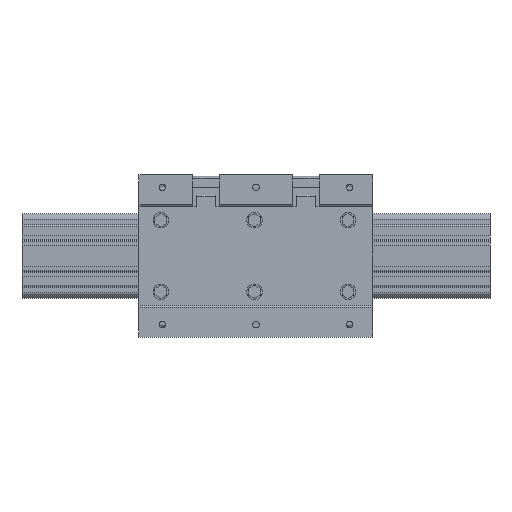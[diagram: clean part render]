
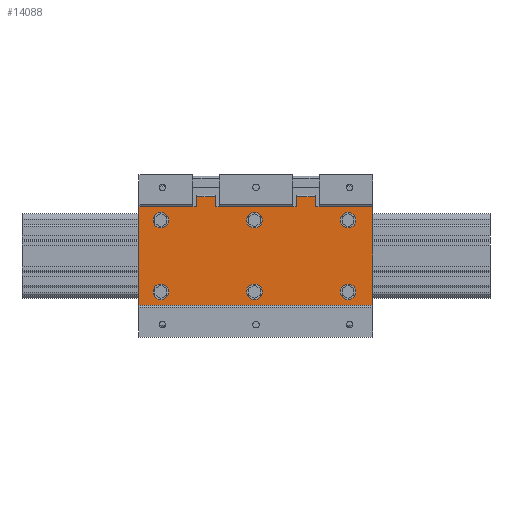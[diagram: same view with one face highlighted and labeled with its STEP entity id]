
A CAD part, top view. The second image highlights one B-rep face of the part: STEP entity #14088.
In plain terms, the highlighted planar face has unit normal (0, 0, 1).
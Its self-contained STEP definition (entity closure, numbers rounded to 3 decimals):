
#7550=CARTESIAN_POINT('',(129.0,-23.,18.));
#7551=VERTEX_POINT('',#7550);
#7552=CARTESIAN_POINT('',(134.0,-23.,18.));
#7553=DIRECTION('',(0.0,0.0,-1.0));
#7554=DIRECTION('',(-1.0,0.0,0.0));
#7555=AXIS2_PLACEMENT_3D('',#7552,#7553,#7554);
#7556=CIRCLE('',#7555,5.0);
#7557=EDGE_CURVE('',#7551,#7551,#7556,.T.);
#7646=CARTESIAN_POINT('',(69.0,-23.,18.));
#7647=VERTEX_POINT('',#7646);
#7648=CARTESIAN_POINT('',(74.0,-23.,18.));
#7649=DIRECTION('',(0.0,0.0,-1.0));
#7650=DIRECTION('',(-1.0,0.0,0.0));
#7651=AXIS2_PLACEMENT_3D('',#7648,#7649,#7650);
#7652=CIRCLE('',#7651,5.0);
#7653=EDGE_CURVE('',#7647,#7647,#7652,.T.);
#7742=CARTESIAN_POINT('',(9.,-23.,18.));
#7743=VERTEX_POINT('',#7742);
#7744=CARTESIAN_POINT('',(14.,-23.,18.));
#7745=DIRECTION('',(0.0,0.0,-1.0));
#7746=DIRECTION('',(-1.0,0.0,0.0));
#7747=AXIS2_PLACEMENT_3D('',#7744,#7745,#7746);
#7748=CIRCLE('',#7747,5.0);
#7749=EDGE_CURVE('',#7743,#7743,#7748,.T.);
#7838=CARTESIAN_POINT('',(129.0,23.,18.));
#7839=VERTEX_POINT('',#7838);
#7840=CARTESIAN_POINT('',(134.0,23.,18.));
#7841=DIRECTION('',(0.0,0.0,-1.0));
#7842=DIRECTION('',(-1.0,0.0,0.0));
#7843=AXIS2_PLACEMENT_3D('',#7840,#7841,#7842);
#7844=CIRCLE('',#7843,5.0);
#7845=EDGE_CURVE('',#7839,#7839,#7844,.T.);
#7934=CARTESIAN_POINT('',(69.0,23.,18.));
#7935=VERTEX_POINT('',#7934);
#7936=CARTESIAN_POINT('',(74.0,23.,18.));
#7937=DIRECTION('',(0.0,0.0,-1.0));
#7938=DIRECTION('',(-1.0,0.0,0.0));
#7939=AXIS2_PLACEMENT_3D('',#7936,#7937,#7938);
#7940=CIRCLE('',#7939,5.0);
#7941=EDGE_CURVE('',#7935,#7935,#7940,.T.);
#8216=CARTESIAN_POINT('',(9.,23.,18.));
#8217=VERTEX_POINT('',#8216);
#8218=CARTESIAN_POINT('',(14.,23.,18.));
#8219=DIRECTION('',(0.0,0.0,-1.0));
#8220=DIRECTION('',(-1.0,0.0,0.0));
#8221=AXIS2_PLACEMENT_3D('',#8218,#8219,#8220);
#8222=CIRCLE('',#8221,5.0);
#8223=EDGE_CURVE('',#8217,#8217,#8222,.T.);
#12508=CARTESIAN_POINT('',(101.,31.7,18.));
#12509=VERTEX_POINT('',#12508);
#12516=CARTESIAN_POINT('',(101.,38.,18.));
#12517=VERTEX_POINT('',#12516);
#12518=CARTESIAN_POINT('',(101.,38.,18.));
#12519=DIRECTION('',(0.0,-1.0,0.0));
#12520=VECTOR('',#12519,6.3);
#12521=LINE('',#12518,#12520);
#12522=EDGE_CURVE('',#12517,#12509,#12521,.T.);
#12572=CARTESIAN_POINT('',(113.0,38.,18.));
#12573=VERTEX_POINT('',#12572);
#12590=CARTESIAN_POINT('',(113.0,38.,18.));
#12591=DIRECTION('',(-1.0,0.0,0.0));
#12592=VECTOR('',#12591,12.);
#12593=LINE('',#12590,#12592);
#12594=EDGE_CURVE('',#12573,#12517,#12593,.T.);
#12701=CARTESIAN_POINT('',(113.0,31.7,18.));
#12702=VERTEX_POINT('',#12701);
#12703=CARTESIAN_POINT('',(113.0,31.7,18.));
#12704=DIRECTION('',(0.0,1.0,0.0));
#12705=VECTOR('',#12704,6.3);
#12706=LINE('',#12703,#12705);
#12707=EDGE_CURVE('',#12702,#12573,#12706,.T.);
#12745=CARTESIAN_POINT('',(98.5,31.7,18.));
#12746=VERTEX_POINT('',#12745);
#12753=CARTESIAN_POINT('',(98.5,31.7,18.));
#12754=DIRECTION('',(1.0,0.0,0.0));
#12755=VECTOR('',#12754,2.5);
#12756=LINE('',#12753,#12755);
#12757=EDGE_CURVE('',#12746,#12509,#12756,.T.);
#12768=CARTESIAN_POINT('',(115.5,31.7,18.));
#12769=VERTEX_POINT('',#12768);
#12770=CARTESIAN_POINT('',(113.0,31.7,18.));
#12771=DIRECTION('',(1.0,0.0,0.0));
#12772=VECTOR('',#12771,2.5);
#12773=LINE('',#12770,#12772);
#12774=EDGE_CURVE('',#12702,#12769,#12773,.T.);
#12981=CARTESIAN_POINT('',(150.0,31.7,18.));
#12982=VERTEX_POINT('',#12981);
#12983=CARTESIAN_POINT('',(115.5,31.7,18.));
#12984=DIRECTION('',(1.0,0.0,0.0));
#12985=VECTOR('',#12984,34.5);
#12986=LINE('',#12983,#12985);
#12987=EDGE_CURVE('',#12769,#12982,#12986,.T.);
#13021=CARTESIAN_POINT('',(51.5,31.7,18.));
#13022=VERTEX_POINT('',#13021);
#13030=CARTESIAN_POINT('',(51.5,31.7,18.));
#13031=DIRECTION('',(1.0,0.0,0.0));
#13032=VECTOR('',#13031,47.);
#13033=LINE('',#13030,#13032);
#13034=EDGE_CURVE('',#13022,#12746,#13033,.T.);
#13531=CARTESIAN_POINT('',(37.,31.7,18.));
#13532=VERTEX_POINT('',#13531);
#13539=CARTESIAN_POINT('',(37.,38.,18.));
#13540=VERTEX_POINT('',#13539);
#13541=CARTESIAN_POINT('',(37.,38.,18.));
#13542=DIRECTION('',(0.0,-1.0,0.0));
#13543=VECTOR('',#13542,6.3);
#13544=LINE('',#13541,#13543);
#13545=EDGE_CURVE('',#13540,#13532,#13544,.T.);
#13595=CARTESIAN_POINT('',(49.0,38.,18.));
#13596=VERTEX_POINT('',#13595);
#13613=CARTESIAN_POINT('',(49.0,38.,18.));
#13614=DIRECTION('',(-1.0,0.0,0.0));
#13615=VECTOR('',#13614,12.);
#13616=LINE('',#13613,#13615);
#13617=EDGE_CURVE('',#13596,#13540,#13616,.T.);
#13717=CARTESIAN_POINT('',(49.0,31.7,18.));
#13718=VERTEX_POINT('',#13717);
#13719=CARTESIAN_POINT('',(49.0,31.7,18.));
#13720=DIRECTION('',(0.0,1.0,0.0));
#13721=VECTOR('',#13720,6.3);
#13722=LINE('',#13719,#13721);
#13723=EDGE_CURVE('',#13718,#13596,#13722,.T.);
#13747=CARTESIAN_POINT('',(34.5,31.7,18.));
#13748=VERTEX_POINT('',#13747);
#13755=CARTESIAN_POINT('',(34.5,31.7,18.));
#13756=DIRECTION('',(1.0,0.0,0.0));
#13757=VECTOR('',#13756,2.5);
#13758=LINE('',#13755,#13757);
#13759=EDGE_CURVE('',#13748,#13532,#13758,.T.);
#13770=CARTESIAN_POINT('',(49.0,31.7,18.));
#13771=DIRECTION('',(1.0,0.0,0.0));
#13772=VECTOR('',#13771,2.5);
#13773=LINE('',#13770,#13772);
#13774=EDGE_CURVE('',#13718,#13022,#13773,.T.);
#14002=CARTESIAN_POINT('',(150.0,-31.7,18.));
#14003=VERTEX_POINT('',#14002);
#14011=CARTESIAN_POINT('',(0.0,-31.7,18.));
#14012=VERTEX_POINT('',#14011);
#14013=CARTESIAN_POINT('',(0.0,-31.7,18.));
#14014=DIRECTION('',(1.0,0.0,0.0));
#14015=VECTOR('',#14014,150.0);
#14016=LINE('',#14013,#14015);
#14017=EDGE_CURVE('',#14012,#14003,#14016,.T.);
#14030=CARTESIAN_POINT('',(0.0,-31.7,18.));
#14031=DIRECTION('',(0.0,0.0,1.0));
#14032=DIRECTION('',(1.0,0.0,0.0));
#14033=AXIS2_PLACEMENT_3D('',#14030,#14031,#14032);
#14034=PLANE('',#14033);
#14035=CARTESIAN_POINT('',(150.0,-31.7,18.));
#14036=DIRECTION('',(0.0,1.0,0.0));
#14037=VECTOR('',#14036,63.4);
#14038=LINE('',#14035,#14037);
#14039=EDGE_CURVE('',#14003,#12982,#14038,.T.);
#14040=ORIENTED_EDGE('',*,*,#14039,.T.);
#14041=ORIENTED_EDGE('',*,*,#12987,.F.);
#14042=ORIENTED_EDGE('',*,*,#12774,.F.);
#14043=ORIENTED_EDGE('',*,*,#12707,.T.);
#14044=ORIENTED_EDGE('',*,*,#12594,.T.);
#14045=ORIENTED_EDGE('',*,*,#12522,.T.);
#14046=ORIENTED_EDGE('',*,*,#12757,.F.);
#14047=ORIENTED_EDGE('',*,*,#13034,.F.);
#14048=ORIENTED_EDGE('',*,*,#13774,.F.);
#14049=ORIENTED_EDGE('',*,*,#13723,.T.);
#14050=ORIENTED_EDGE('',*,*,#13617,.T.);
#14051=ORIENTED_EDGE('',*,*,#13545,.T.);
#14052=ORIENTED_EDGE('',*,*,#13759,.F.);
#14053=CARTESIAN_POINT('',(0.0,31.7,18.));
#14054=VERTEX_POINT('',#14053);
#14055=CARTESIAN_POINT('',(0.0,31.7,18.));
#14056=DIRECTION('',(1.0,0.0,0.0));
#14057=VECTOR('',#14056,34.5);
#14058=LINE('',#14055,#14057);
#14059=EDGE_CURVE('',#14054,#13748,#14058,.T.);
#14060=ORIENTED_EDGE('',*,*,#14059,.F.);
#14061=CARTESIAN_POINT('',(0.0,31.7,18.));
#14062=DIRECTION('',(0.0,-1.0,0.0));
#14063=VECTOR('',#14062,63.4);
#14064=LINE('',#14061,#14063);
#14065=EDGE_CURVE('',#14054,#14012,#14064,.T.);
#14066=ORIENTED_EDGE('',*,*,#14065,.T.);
#14067=ORIENTED_EDGE('',*,*,#14017,.T.);
#14068=EDGE_LOOP('',(#14040,#14041,#14042,#14043,#14044,#14045,#14046,#14047,#14048,#14049,#14050,#14051,#14052,#14060,#14066,#14067));
#14069=FACE_OUTER_BOUND('',#14068,.T.);
#14070=ORIENTED_EDGE('',*,*,#7557,.T.);
#14071=EDGE_LOOP('',(#14070));
#14072=FACE_BOUND('',#14071,.T.);
#14073=ORIENTED_EDGE('',*,*,#7653,.T.);
#14074=EDGE_LOOP('',(#14073));
#14075=FACE_BOUND('',#14074,.T.);
#14076=ORIENTED_EDGE('',*,*,#7749,.T.);
#14077=EDGE_LOOP('',(#14076));
#14078=FACE_BOUND('',#14077,.T.);
#14079=ORIENTED_EDGE('',*,*,#7845,.T.);
#14080=EDGE_LOOP('',(#14079));
#14081=FACE_BOUND('',#14080,.T.);
#14082=ORIENTED_EDGE('',*,*,#7941,.T.);
#14083=EDGE_LOOP('',(#14082));
#14084=FACE_BOUND('',#14083,.T.);
#14085=ORIENTED_EDGE('',*,*,#8223,.T.);
#14086=EDGE_LOOP('',(#14085));
#14087=FACE_BOUND('',#14086,.T.);
#14088=ADVANCED_FACE('',(#14069,#14072,#14075,#14078,#14081,#14084,#14087),#14034,.T.);
